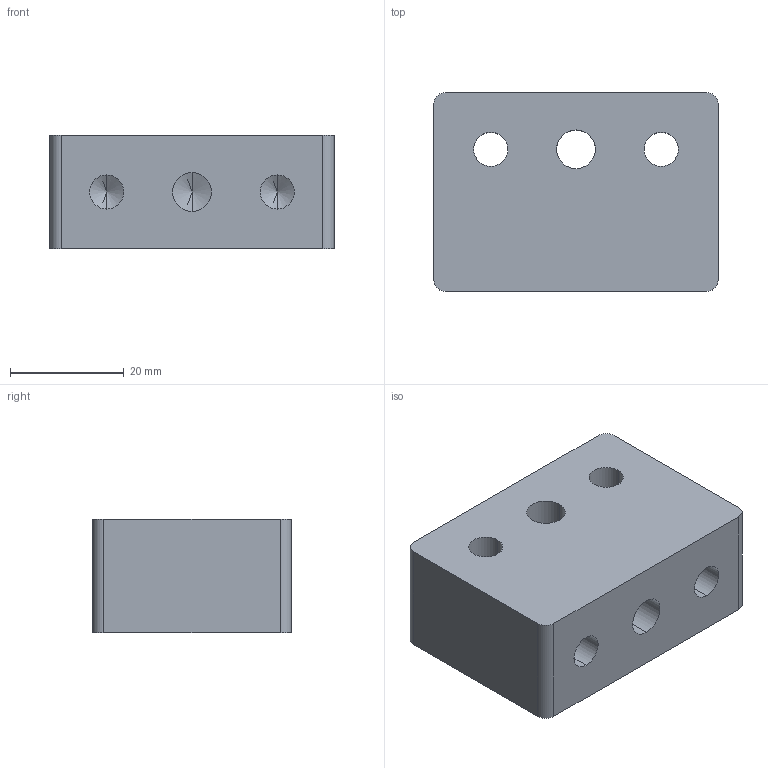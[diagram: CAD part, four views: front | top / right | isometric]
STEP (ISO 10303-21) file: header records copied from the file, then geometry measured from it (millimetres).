
FILE_DESCRIPTION (( 'STEP AP214' ), '1' );
FILE_NAME ('BM-08-03-00-ST-BR-00__Notum.STEP', '2018-03-29T11:14:16', ( '' ), ( '' ), 'SwSTEP 2.0', 'SolidWorks 2015', '' );
FILE_SCHEMA (( 'AUTOMOTIVE_DESIGN' ));
Length unit declared in the file: millimetre
Products named in the file (1): BM-08-03-00-ST-BR-00__Notum
Bounding box: 50 x 35 x 20 mm (x, y, z)
Volume: 31654.3 mm3; surface area: 8904.5 mm2
Topology: 1 solids, 1 shells, 547 faces, 1452 edges, 963 vertices
Faces by surface type: plane 346, bspline 179, cylinder 16, cone 6
Entity records: 31771 total; most frequent: CARTESIAN_POINT 13616, ORIENTED_EDGE 2892, DIRECTION 1858, EDGE_CURVE 1446, VECTOR 1056, LINE 1056, VERTEX_POINT 963, EDGE_LOOP 615
